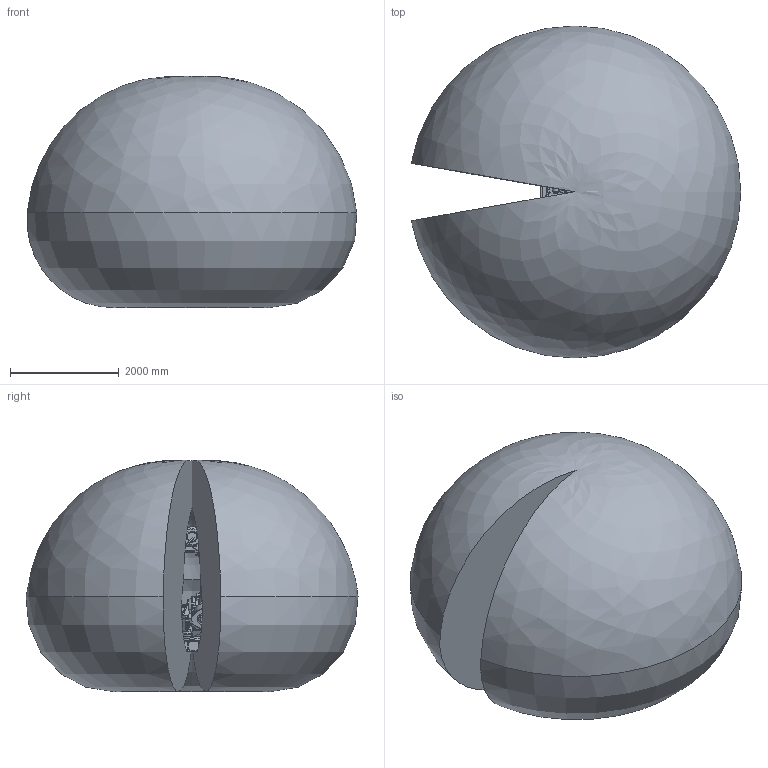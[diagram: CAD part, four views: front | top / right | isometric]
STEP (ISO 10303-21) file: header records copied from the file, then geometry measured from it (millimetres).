
FILE_DESCRIPTION(/* description */ (''),/* implementation_level */ '2;1');
FILE_NAME(/* name */ 'E:\组装完成的图纸\IRB 6700\IRB 6700-175-3.05\IRB 6700-175-3.05(带工作域).stp',/* time_stamp */ '2023-11-04T19:19:53+08:00',/* author */ ('Administrator'),/* organization */ (''),/* preprocessor_version */ 'ST-DEVELOPER v16.5',/* originating_system */ 'Autodesk Inventor 2017',/* authorisation */ '');
FILE_SCHEMA (('AUTOMOTIVE_DESIGN { 1 0 10303 214 3 1 1 }'));
Products named in the file (18): 部件1; IRB6700_175-305_IRC5_rev00_LOGO1_CAD; IRB6700_175-305_IRC5_rev00_LOGO2_CAD; IRB6700_175-305_IRC5_rev00_LOGO3_CAD; IRB6700_175-305_IRC5_rev01_BASE_CAD; IRB6700_175-305_IRC5_rev01_LINK02m_CABLE; IRB6700_175-305_IRC5_rev01_LINK06_CAD; IRB6700_175-305_IRC5_rev02_LINK01m_CABLE; IRB6700_175-305_IRC5_rev02_LINK03m_CABLE; IRB6700_175-305_IRC5_rev02_LINK06_CAD; IRB6700_175-305_IRC5_rev03_LINK02_CAD; IRB6700_175-305_IRC5_rev03_LINK04_CAD; IRB6700_175-305_IRC5_rev03_ROD_CAD; IRB6700_175-305_IRC5_rev04_LINK05_CAD; IRB6700_175-305_IRC5_rev05_LINK03_CAD; IRB6700_175-305_IRC5_rev06_CYLINDER_CAD; IRB6700_175-305_IRC5_rev06_LINK01_CAD; IRB6700_305_Working_space
Assembly tree (17 placements, depth 2):
  部件1
    IRB6700_175-305_IRC5_rev00_LOGO1_CAD
    IRB6700_175-305_IRC5_rev00_LOGO2_CAD
    IRB6700_175-305_IRC5_rev00_LOGO3_CAD
    IRB6700_175-305_IRC5_rev01_BASE_CAD
    IRB6700_175-305_IRC5_rev01_LINK02m_CABLE
    IRB6700_175-305_IRC5_rev01_LINK06_CAD
    IRB6700_175-305_IRC5_rev02_LINK01m_CABLE
    IRB6700_175-305_IRC5_rev02_LINK03m_CABLE
    IRB6700_175-305_IRC5_rev02_LINK06_CAD
    IRB6700_175-305_IRC5_rev03_LINK02_CAD
    IRB6700_175-305_IRC5_rev03_LINK04_CAD
    IRB6700_175-305_IRC5_rev03_ROD_CAD
    IRB6700_175-305_IRC5_rev04_LINK05_CAD
    IRB6700_175-305_IRC5_rev05_LINK03_CAD
    IRB6700_175-305_IRC5_rev06_CYLINDER_CAD
    IRB6700_175-305_IRC5_rev06_LINK01_CAD
    IRB6700_305_Working_space
Bounding box: 6049.41 x 6094.62 x 4243.3 mm (x, y, z)
Volume: 79538692848.9 mm3; surface area: 140535438.3 mm2
Topology: 18 solids, 20 shells, 5445 faces, 14455 edges, 9367 vertices
Faces by surface type: plane 3265, cylinder 1123, cone 566, bspline 466, torus 18, sphere 7
Full cylindrical faces by diameter (mm): 1.6 x2, 5 x23, 6 x14, 6.5 x8, 6.6 x9, 6.8 x13, 7 x16, 7.1 x2, 7.5 x8, 8 x2, 8.3 x4, 8.5 x4, 8.6 x4, 8.8 x4, 9 x5, 10 x4, 10.2 x49, 11.05 x4, 12 x2, 12.5 x2, 13 x1, 14 x6, 14.385 x3, 16 x1, 16.3 x1, 17.5 x8, 17.583 x1, 17.6 x1, 17.608 x1, 18 x16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
Entity records: 233529 total; most frequent: CARTESIAN_POINT 103084, ORIENTED_EDGE 27100, DIRECTION 25389, EDGE_CURVE 13550, VERTEX_POINT 9118, AXIS2_PLACEMENT_3D 8645, LINE 8099, VECTOR 8099
